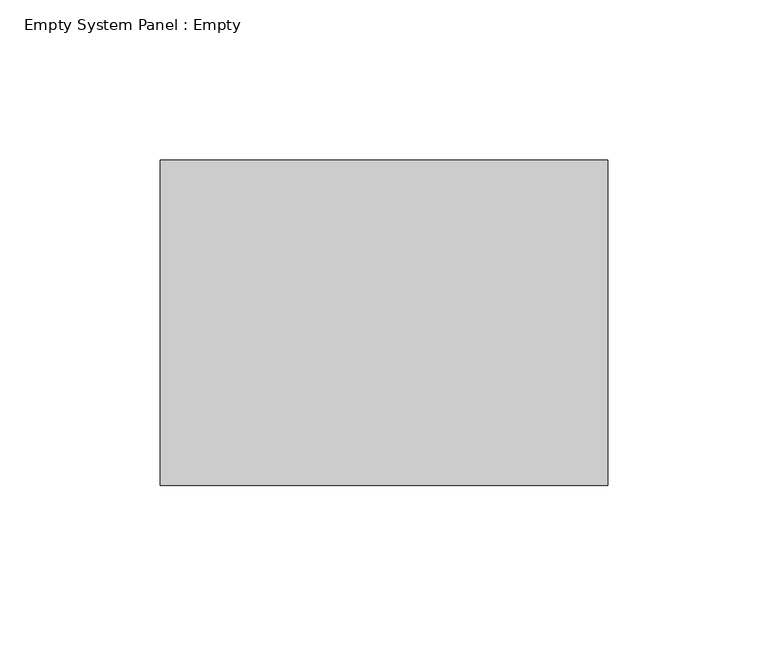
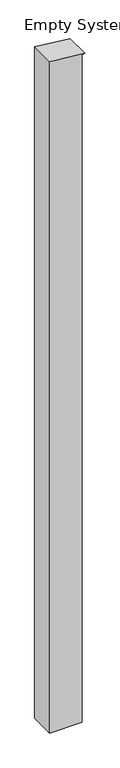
"""IFC4 building model written with IfcOpenShell, lengths in millimetres: plate geometry, Empty System Panel : Empty."""

from ifc_helpers import new_model, si_unit, frame, origin, place, context, project, spatial, polyline, outline, extrude, source, transform, mapped, element, save


def empty_system_panel_empty_89d13787(model_context):
    return source(origin(), model_context, "Body", "SweptSolid", [
        extrude(outline(polyline([(0.0, -69.85), (0.0, 57.15), (2775.4480135, 57.15), (2775.4480135, 69.85), (2791.0732035, -69.85), (0.0, -69.85)])), frame((0.0, -50.8, 0.0), z_axis=(0.0, 1.0, 0.0), x_axis=(0.0, 0.0, 1.0)), (0.0, 0.0, 1.0), 101.6),
    ])


if __name__ == "__main__":
    model = new_model("IFC4")
    model_context = context("Model", 3, world=origin())
    ifc_project = project(units=[si_unit("LENGTHUNIT", "METRE", prefix="MILLI")], contexts=[model_context])
    site = spatial("IfcSite", under=ifc_project)
    building = spatial("IfcBuilding", under=site)
    placement = place(None, origin())
    empty_system_panel_empty_shape = empty_system_panel_empty_89d13787(model_context)
    element("IfcPlate", 1, ObjectType="Empty System Panel : Empty", at=placement, inside=building, context=model_context, shape_type="MappedRepresentation", body=[
        mapped(empty_system_panel_empty_shape, transform((0.0, 0.0, 0.0), x_axis=(1.0, 0.0, 0.0), y_axis=(0.0, 1.0, 0.0), z_axis=(0.0, 0.0, 1.0))),
    ])
    save(model, "model.ifc")
